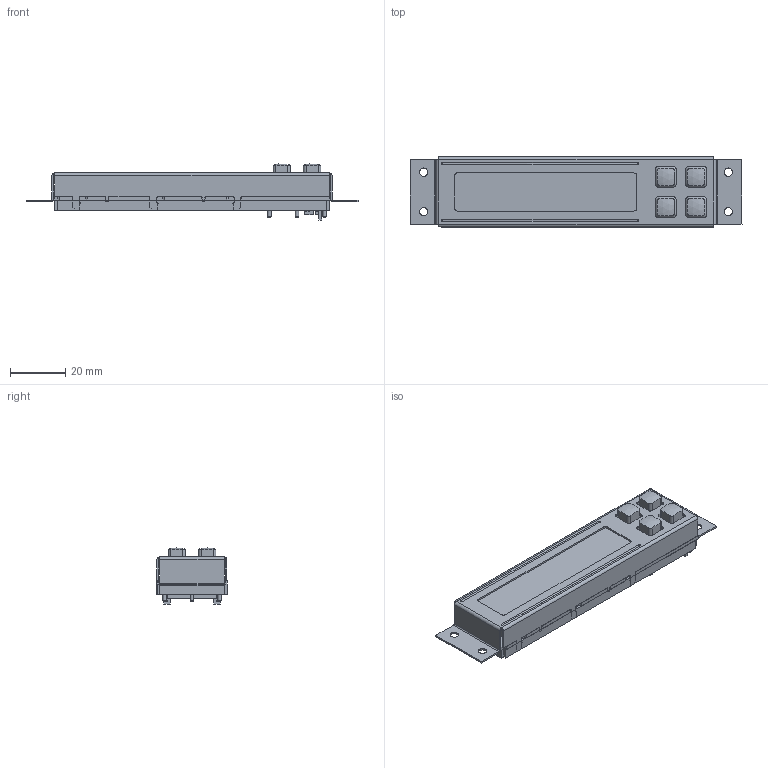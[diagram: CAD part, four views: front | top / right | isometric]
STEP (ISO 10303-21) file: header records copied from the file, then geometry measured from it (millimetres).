
FILE_DESCRIPTION((''),'2;1');
FILE_NAME('D:\Inventor\UE\Crystalfontz\CFA631 Panel Mount.stp','2014-05-21T11:20:11',('Jon'),(''),'Autodesk Inventor 2012','Autodesk Inventor 2012','');
FILE_SCHEMA(('AUTOMOTIVE_DESIGN { 1 0 10303 214 1 1 1 1 }'));
Length unit declared in the file: millimetre
Products named in the file (9): CFA631 Panel Mount; Bracket, Panel Mount; 220A KEYPAD; PCB; Display; DF11G-16DP-2V; FCI_95000_004; KEEP-OUT; Glass
Assembly tree (8 placements, depth 2):
  CFA631 Panel Mount
    Bracket, Panel Mount
    220A KEYPAD
    PCB
    Display
    DF11G-16DP-2V
    FCI_95000_004
    KEEP-OUT
    Glass
Bounding box: 120.4 x 25.43 x 20.32 mm (x, y, z)
Volume: 26803.8 mm3; surface area: 29944 mm2
Topology: 8 solids, 8 shells, 1279 faces, 3501 edges, 2267 vertices
Faces by surface type: plane 678, cylinder 361, bspline 182, cone 30, torus 16, sphere 12
Full cylindrical faces by diameter (mm): 0.5 x48, 1 x2, 1.3 x5, 1.6 x2, 1.68 x5, 1.9 x5, 3 x4
Entity records: 46716 total; most frequent: CARTESIAN_POINT 14391, ORIENTED_EDGE 6682, DIRECTION 6539, EDGE_CURVE 3341, VECTOR 2251, LINE 2251, VERTEX_POINT 2227, AXIS2_PLACEMENT_3D 2144
